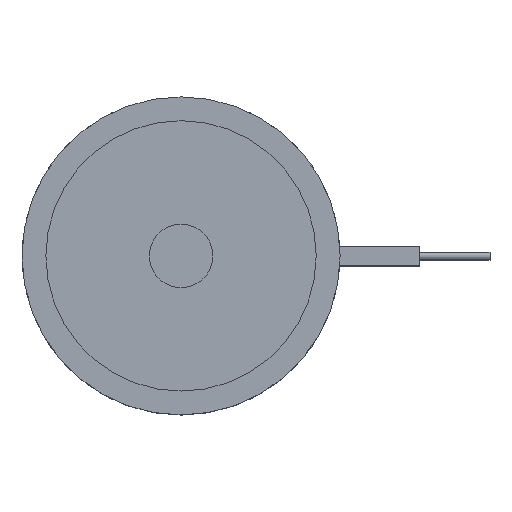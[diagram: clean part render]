
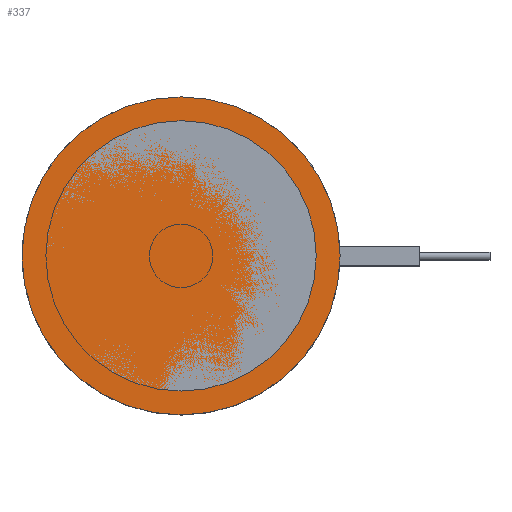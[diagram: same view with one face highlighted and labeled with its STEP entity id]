
A CAD part, top view. The second image highlights one B-rep face of the part: STEP entity #337.
In plain terms, the highlighted planar face has unit normal (0, 0, 1).
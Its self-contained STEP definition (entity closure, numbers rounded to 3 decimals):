
#248=CIRCLE('',#1189,20.);
#337=ADVANCED_FACE('',(#441),#403,.F.);
#403=PLANE('',#1190);
#441=FACE_OUTER_BOUND('',#531,.T.);
#531=EDGE_LOOP('',(#677));
#677=ORIENTED_EDGE('',*,*,#976,.F.);
#877=VERTEX_POINT('',#1753);
#976=EDGE_CURVE('',#877,#877,#248,.T.);
#1189=AXIS2_PLACEMENT_3D('',#1752,#1407,#1408);
#1190=AXIS2_PLACEMENT_3D('',#1754,#1409,#1410);
#1407=DIRECTION('',(0.,0.,-1.));
#1408=DIRECTION('',(-1.,0.,0.));
#1409=DIRECTION('',(0.,0.,-1.));
#1410=DIRECTION('',(-1.,0.,0.));
#1752=CARTESIAN_POINT('',(0.,0.,0.));
#1753=CARTESIAN_POINT('',(-20.,0.,0.));
#1754=CARTESIAN_POINT('',(0.,0.,0.));
